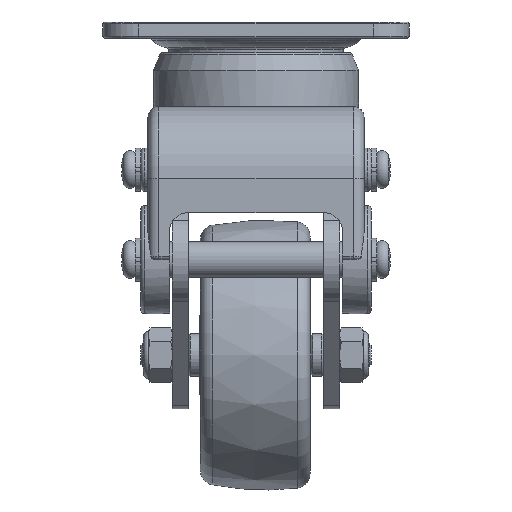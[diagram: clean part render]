
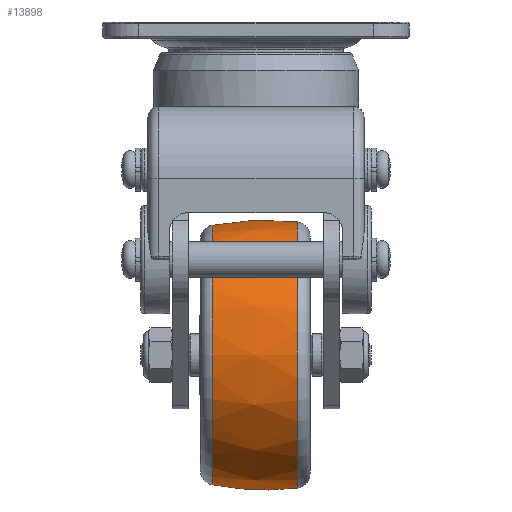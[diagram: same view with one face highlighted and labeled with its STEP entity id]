
A CAD part, left-side view. The second image highlights one B-rep face of the part: STEP entity #13898.
In plain terms, the highlighted free-form (B-spline) face has degree [2, 2] with [3, 9] control points.
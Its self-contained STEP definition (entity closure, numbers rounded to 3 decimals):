
#174=(
BOUNDED_SURFACE()
B_SPLINE_SURFACE(2,2,((#23306,#23307,#23308,#23309,#23310,#23311,#23312,
#23313,#23314),(#23315,#23316,#23317,#23318,#23319,#23320,#23321,#23322,
#23323),(#23324,#23325,#23326,#23327,#23328,#23329,#23330,#23331,#23332)),
 .UNSPECIFIED.,.F.,.T.,.F.)
B_SPLINE_SURFACE_WITH_KNOTS((3,3),(3,2,2,2,3),(-0.119,0.198),
(-3.142,-1.571,0.,1.571,3.142),
 .UNSPECIFIED.)
GEOMETRIC_REPRESENTATION_ITEM()
RATIONAL_B_SPLINE_SURFACE(((1.,0.707,1.,0.707,1.,
0.707,1.,0.707,1.),(0.987,0.698,
0.987,0.698,0.987,0.698,
0.987,0.698,0.987),(1.,0.707,
1.,0.707,1.,0.707,1.,0.707,1.)))
REPRESENTATION_ITEM('')
SURFACE()
);
#772=CIRCLE('',#15060,36.968);
#773=CIRCLE('',#15061,36.968);
#775=CIRCLE('',#15063,36.031);
#776=CIRCLE('',#15064,36.031);
#777=CIRCLE('',#15065,75.);
#1822=FACE_OUTER_BOUND('',#2668,.T.);
#2668=EDGE_LOOP('',(#11582,#11583,#11584,#11585,#11586,#11587));
#6436=VERTEX_POINT('',#23301);
#6437=VERTEX_POINT('',#23302);
#6438=VERTEX_POINT('',#23333);
#6439=VERTEX_POINT('',#23334);
#8239=EDGE_CURVE('',#6436,#6437,#772,.T.);
#8240=EDGE_CURVE('',#6437,#6436,#773,.T.);
#8242=EDGE_CURVE('',#6438,#6439,#775,.T.);
#8243=EDGE_CURVE('',#6439,#6438,#776,.T.);
#8244=EDGE_CURVE('',#6439,#6437,#777,.T.);
#11582=ORIENTED_EDGE('',*,*,#8242,.F.);
#11583=ORIENTED_EDGE('',*,*,#8243,.F.);
#11584=ORIENTED_EDGE('',*,*,#8244,.T.);
#11585=ORIENTED_EDGE('',*,*,#8240,.T.);
#11586=ORIENTED_EDGE('',*,*,#8239,.T.);
#11587=ORIENTED_EDGE('',*,*,#8244,.F.);
#13898=ADVANCED_FACE('',(#1822),#174,.F.);
#15060=AXIS2_PLACEMENT_3D('',#23303,#17566,#17567);
#15061=AXIS2_PLACEMENT_3D('',#23304,#17568,#17569);
#15063=AXIS2_PLACEMENT_3D('',#23335,#17572,#17573);
#15064=AXIS2_PLACEMENT_3D('',#23336,#17574,#17575);
#15065=AXIS2_PLACEMENT_3D('',#23337,#17576,#17577);
#17566=DIRECTION('center_axis',(0.,1.,0.));
#17567=DIRECTION('ref_axis',(1.,0.,0.));
#17568=DIRECTION('center_axis',(0.,1.,0.));
#17569=DIRECTION('ref_axis',(1.,0.,0.));
#17572=DIRECTION('center_axis',(0.,1.,0.));
#17573=DIRECTION('ref_axis',(1.,0.,0.));
#17574=DIRECTION('center_axis',(0.,1.,0.));
#17575=DIRECTION('ref_axis',(1.,0.,0.));
#17576=DIRECTION('center_axis',(-1.,0.,0.));
#17577=DIRECTION('ref_axis',(0.,0.,-1.));
#23301=CARTESIAN_POINT('',(0.,3.524,36.968));
#23302=CARTESIAN_POINT('',(0.,3.524,-36.968));
#23303=CARTESIAN_POINT('Origin',(0.,3.524,0.));
#23304=CARTESIAN_POINT('Origin',(0.,3.524,0.));
#23306=CARTESIAN_POINT('Ctrl Pts',(0.,3.524,-36.968));
#23307=CARTESIAN_POINT('Ctrl Pts',(-36.968,3.524,-36.968));
#23308=CARTESIAN_POINT('Ctrl Pts',(-36.968,3.524,0.));
#23309=CARTESIAN_POINT('Ctrl Pts',(-36.968,3.524,36.968));
#23310=CARTESIAN_POINT('Ctrl Pts',(0.,3.524,36.968));
#23311=CARTESIAN_POINT('Ctrl Pts',(36.968,3.524,36.968));
#23312=CARTESIAN_POINT('Ctrl Pts',(36.968,3.524,0.));
#23313=CARTESIAN_POINT('Ctrl Pts',(36.968,3.524,-36.968));
#23314=CARTESIAN_POINT('Ctrl Pts',(0.,3.524,-36.968));
#23315=CARTESIAN_POINT('Ctrl Pts',(0.,15.444,-38.395));
#23316=CARTESIAN_POINT('Ctrl Pts',(-38.395,15.444,-38.395));
#23317=CARTESIAN_POINT('Ctrl Pts',(-38.395,15.444,0.));
#23318=CARTESIAN_POINT('Ctrl Pts',(-38.395,15.444,38.395));
#23319=CARTESIAN_POINT('Ctrl Pts',(0.,15.444,38.395));
#23320=CARTESIAN_POINT('Ctrl Pts',(38.395,15.444,38.395));
#23321=CARTESIAN_POINT('Ctrl Pts',(38.395,15.444,0.));
#23322=CARTESIAN_POINT('Ctrl Pts',(38.395,15.444,-38.395));
#23323=CARTESIAN_POINT('Ctrl Pts',(0.,15.444,-38.395));
#23324=CARTESIAN_POINT('Ctrl Pts',(0.,27.214,-36.031));
#23325=CARTESIAN_POINT('Ctrl Pts',(-36.031,27.214,-36.031));
#23326=CARTESIAN_POINT('Ctrl Pts',(-36.031,27.214,0.));
#23327=CARTESIAN_POINT('Ctrl Pts',(-36.031,27.214,36.031));
#23328=CARTESIAN_POINT('Ctrl Pts',(0.,27.214,36.031));
#23329=CARTESIAN_POINT('Ctrl Pts',(36.031,27.214,36.031));
#23330=CARTESIAN_POINT('Ctrl Pts',(36.031,27.214,0.));
#23331=CARTESIAN_POINT('Ctrl Pts',(36.031,27.214,-36.031));
#23332=CARTESIAN_POINT('Ctrl Pts',(0.,27.214,-36.031));
#23333=CARTESIAN_POINT('',(0.,27.214,36.031));
#23334=CARTESIAN_POINT('',(0.,27.214,-36.031));
#23335=CARTESIAN_POINT('Origin',(0.,27.214,0.));
#23336=CARTESIAN_POINT('Origin',(0.,27.214,0.));
#23337=CARTESIAN_POINT('Origin',(0.,12.442,
37.5));
